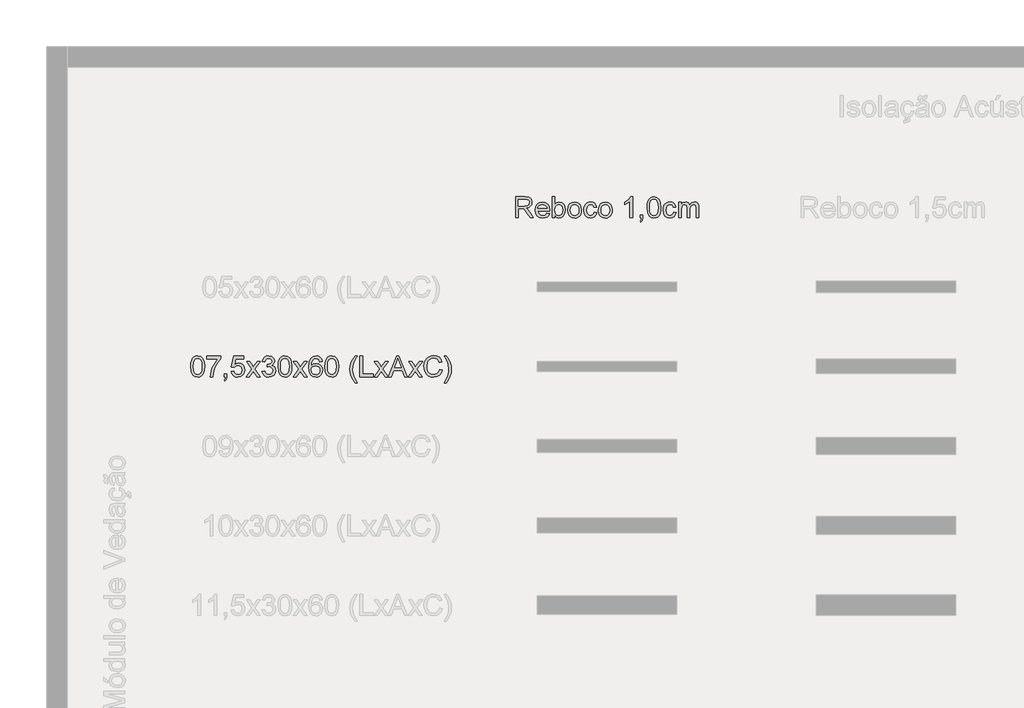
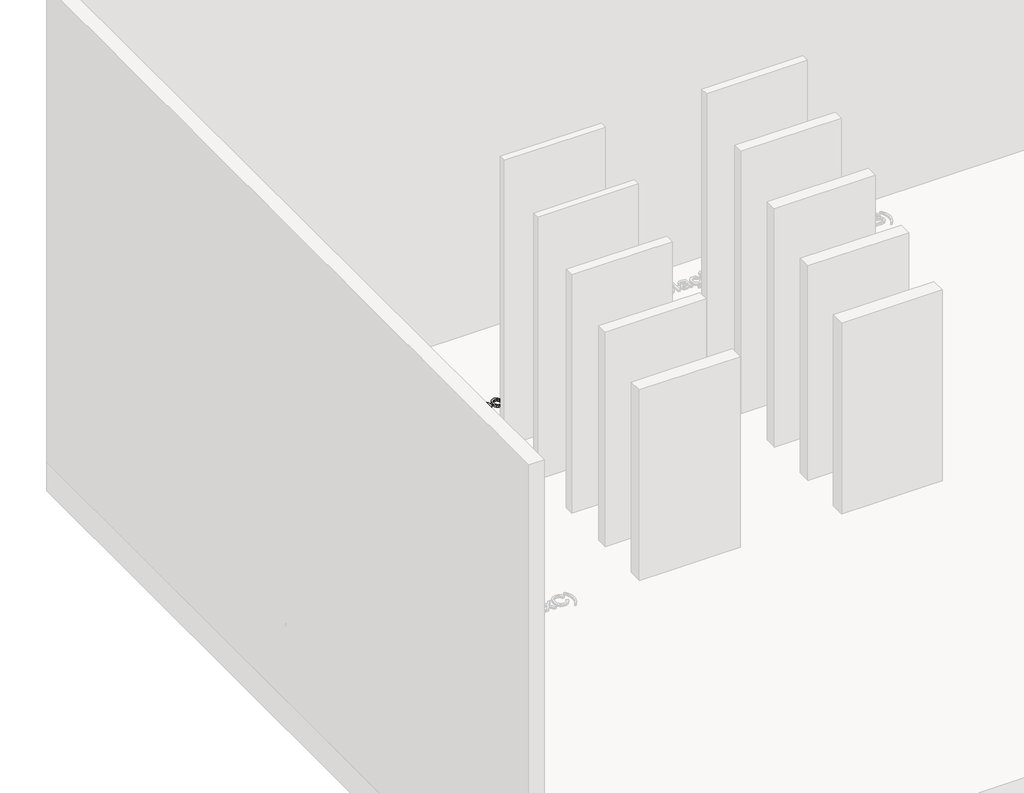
# One storey, part 24 of 26: 2 proxies.
"""IFC4 building model written with IfcOpenShell, lengths in millimetres."""

from ifc_helpers import new_model, si_unit, origin, origin_with_axes, place, context, project, spatial, polyline, outline, extrude, element, save

model = new_model("IFC4")

# Units and contexts
model_context = context("Model", 3, world=origin())
ifc_project = project(units=[si_unit("LENGTHUNIT", "METRE", prefix="MILLI")], contexts=[model_context])

# Site, building, storey
site = spatial("IfcSite", under=ifc_project)
building = spatial("IfcBuilding", under=site)
storey = spatial("IfcBuildingStorey", under=building, Name="Catálogo Celucon", Elevation=0.0)

# Proxies
placement = place(None, origin())
element("IfcBuildingElementProxy", 1, Name="Legenda Tabela de Módulos", ObjectType="Legenda Tabela de Módulos", at=placement, inside=storey, context=model_context, shape_type="SweptSolid", body=[
    extrude(outline(polyline([(7977.4161545, 58.7424105), (7978.8003105, 82.8616738), (7982.9527786, 102.0973037), (7989.8321719, 116.7436056), (7999.3971037, 127.0948852), (8011.7165521, 133.2477116), (8026.8594947, 135.2986537), (8048.858838, 130.4426114), (8064.0523644, 116.4447015), (8072.8815323, 94.1510526), (8076.3028348, 58.7424105), (8074.9324744, 34.761103), (8070.8213931, 15.5714584), (8063.9833865, 0.9113609), (8054.4322502, -9.4813055), (8042.0852108, -15.6755186), (8026.8594947, -17.7402563), (8007.2881725, -14.1534068), (7992.4257399, -3.3928585), (7981.1685509, 22.0921667), (7977.4161545, 58.7424105)]), holes=[polyline([(7996.2517127, 58.7791987), (7998.4590046, 29.1509025), (8005.0808806, 12.003003), (8014.940118, 3.8222272), (8026.8594947, 1.0953019), (8038.7788713, 3.8314242), (8048.6381088, 12.0397912), (8055.2599847, 29.1968878), (8057.4672767, 58.7791987), (8055.3335611, 87.7407088), (8048.9324144, 105.0219655), (8039.091571, 113.602813), (8026.6387655, 116.4630956), (8014.8481475, 113.9431039), (8005.3751862, 106.3831289), (7998.532581, 88.0258173), (7996.2517127, 58.7791987)])]), origin_with_axes(), (0.0, 0.0, 1.0), 20.0),
    extrude(outline(polyline([(8092.7839482, 114.1086508), (8092.7839482, 132.9442089), (8191.6706285, 132.9442089), (8191.6706285, 117.7138943), (8163.6196264, 77.1916926), (8151.3093751, 51.72966), (8142.153712, 25.5594546), (8135.1639541, -15.3858115), (8116.3283959, -15.3858115), (8123.8147945, 27.1045589), (8132.5289993, 51.5641131), (8144.3610039, 75.1315534), (8172.8350704, 114.1086508), (8092.7839482, 114.1086508)])), origin_with_axes(), (0.0, 0.0, 1.0), 20.0),
    extrude(outline(polyline([(8217.569521, -15.3858115), (8217.569521, 3.4497466), (8236.4050791, 3.4497466), (8236.4050791, -15.3858115), (8233.0205648, -34.644434), (8222.2784105, -45.9935935), (8217.569521, -38.9302592), (8224.4857025, -30.8000671), (8226.9505119, -15.3858115), (8217.569521, -15.3858115)])), origin_with_axes(), (0.0, 0.0, 1.0), 20.0),
    extrude(outline(polyline([(8267.0128611, 24.6397496), (8285.8484193, 26.9941943), (8289.30651, 15.6864215), (8295.3397748, 7.5884191), (8303.9206223, 2.7185812), (8315.0214615, 1.0953019), (8328.5227307, 3.3531776), (8338.6394856, 10.1268049), (8344.9578589, 20.6344343), (8347.0639833, 34.0943168), (8345.0912161, 46.7678516), (8339.1729145, 56.4615421), (8329.2630932, 62.6143685), (8315.3157671, 64.6653106), (8298.7794714, 61.3911609), (8288.2028641, 52.8930868), (8269.3673059, 55.2475316), (8285.8484193, 132.9442089), (8358.8362071, 132.9442089), (8358.8362071, 114.1086508), (8301.0787339, 114.1086508), (8293.0221182, 72.6115617), (8306.4774022, 80.778542), (8320.5764796, 83.5008688), (8338.1750346, 80.1255515), (8352.7845483, 69.9995996), (8362.6207932, 54.5669499), (8365.8995414, 35.2715392), (8362.9472884, 16.4359811), (8354.0905294, 0.3227497), (8337.1311694, -13.2245048), (8314.9478851, -17.7402563), (8296.4480193, -14.838587), (8281.7097468, -6.1335793), (8271.6067875, 7.3630914), (8267.0128611, 24.6397496)])), origin_with_axes(), (0.0, 0.0, 1.0), 20.0),
    extrude(outline(polyline([(8375.3173205, -15.3858115), (8415.5636108, 40.2379462), (8377.6717653, 95.2730926), (8400.3332962, 95.2730926), (8418.6170313, 68.785589), (8427.1518936, 56.2776012), (8434.5463217, 66.5047206), (8455.3684427, 95.2730926), (8478.0299736, 95.2730926), (8438.2251417, 40.2379462), (8476.5584456, -15.3858115), (8453.8969147, -15.3858115), (8430.8307136, 18.0546619), (8426.6000706, 24.161503), (8397.9788514, -15.3858115), (8375.3173205, -15.3858115)])), origin_with_axes(), (0.0, 0.0, 1.0), 20.0),
    extrude(outline(polyline([(8488.3306694, 24.6397496), (8507.1662276, 26.9941943), (8511.3830749, 15.1575911), (8517.5588939, 7.1653548), (8525.9971872, 2.6128151), (8537.0014574, 1.0953019), (8549.9141154, 3.1830322), (8559.8837175, 9.4462232), (8566.2572731, 18.7904258), (8568.3817916, 30.1211913), (8566.2756672, 40.8771411), (8559.9572939, 49.6005429), (8550.392362, 55.3808888), (8538.5465618, 57.3076707), (8525.3395981, 55.2475316), (8527.4365255, 74.0830897), (8530.4531579, 73.8623605), (8551.8271018, 79.2702258), (8558.9456184, 86.1312251), (8561.3184573, 95.898492), (8559.5986089, 104.0332827), (8554.439064, 110.6321659), (8546.5663893, 115.0053632), (8536.7071518, 116.4630956), (8526.8295202, 114.9915676), (8518.7545104, 110.5769836), (8512.8592015, 103.2193437), (8509.5206723, 92.9186479), (8490.6851142, 95.2730926), (8496.2309353, 112.1864674), (8506.0993698, 124.8140169), (8519.600639, 132.6774945), (8536.0449642, 135.2986537), (8558.7616774, 130.1299117), (8574.6541796, 116.0032431), (8580.1540154, 97.002138), (8574.9300911, 79.6381078), (8559.4790473, 67.1669082), (8571.2696652, 62.4028364), (8580.0068626, 54.2910384), (8585.414728, 43.2729726), (8587.2173497, 29.7900975), (8583.6121062, 11.4327859), (8572.7963755, -3.9078933), (8556.471612, -14.2821655), (8536.3392698, -17.7402563), (8518.129111, -14.7880033), (8503.3034666, -5.9312442), (8492.9935737, 7.6160102), (8488.3306694, 24.6397496)])), origin_with_axes(), (0.0, 0.0, 1.0), 20.0),
    extrude(outline(polyline([(8603.6984631, 58.7424105), (8605.0826191, 82.8616738), (8609.2350871, 102.0973037), (8616.1144805, 116.7436056), (8625.6794123, 127.0948852), (8637.9988606, 133.2477116), (8653.1418033, 135.2986537), (8675.1411466, 130.4426114), (8690.334673, 116.4447015), (8699.1638409, 94.1510526), (8702.5851434, 58.7424105), (8701.214783, 34.761103), (8697.1037017, 15.5714584), (8690.2656951, 0.9113609), (8680.7145588, -9.4813055), (8668.3675193, -15.6755186), (8653.1418033, -17.7402563), (8633.5704811, -14.1534068), (8618.7080485, -3.3928585), (8607.4508595, 22.0921667), (8603.6984631, 58.7424105)]), holes=[polyline([(8622.5340213, 58.7791987), (8624.7413132, 29.1509025), (8631.3631892, 12.003003), (8641.2224266, 3.8222272), (8653.1418033, 1.0953019), (8665.0611799, 3.8314242), (8674.9204174, 12.0397912), (8681.5422933, 29.1968878), (8683.7495853, 58.7791987), (8681.6158697, 87.7407088), (8675.214723, 105.0219655), (8665.3738796, 113.602813), (8652.9210741, 116.4630956), (8641.1304561, 113.9431039), (8631.6574947, 106.3831289), (8624.8148896, 88.0258173), (8622.5340213, 58.7791987)])]), origin_with_axes(), (0.0, 0.0, 1.0), 20.0),
    extrude(outline(polyline([(8712.0029225, -15.3858115), (8752.2492128, 40.2379462), (8714.3573673, 95.2730926), (8737.0188982, 95.2730926), (8755.3026333, 68.785589), (8763.8374956, 56.2776012), (8771.2319237, 66.5047206), (8792.0540446, 95.2730926), (8814.7155755, 95.2730926), (8774.9107437, 40.2379462), (8813.2440476, -15.3858115), (8790.5825167, -15.3858115), (8767.5163156, 18.0546619), (8763.2856726, 24.161503), (8734.6644534, -15.3858115), (8712.0029225, -15.3858115)])), origin_with_axes(), (0.0, 0.0, 1.0), 20.0),
    extrude(outline(polyline([(8921.5485069, 95.2730926), (8902.7129488, 92.9186479), (8895.5760381, 108.6272091), (8887.0319787, 114.5041239), (8876.7036917, 116.4630956), (8859.7075436, 111.9013588), (8846.8500678, 94.7764519), (8842.9459202, 80.7463524), (8841.4973848, 61.2072199), (8858.1072569, 76.2351994), (8878.6902545, 81.146424), (8896.0910729, 77.7895008), (8910.6959881, 67.7187312), (8920.6012108, 52.3320668), (8923.9029517, 33.0274591), (8922.3486503, 19.5399854), (8917.685746, 7.0365961), (8910.3005149, -3.5676024), (8900.5792332, -11.3575037), (8888.9633592, -16.1445681), (8875.8943513, -17.7402563), (8854.525006, -13.5096133), (8837.5058651, -0.8176845), (8826.3728363, 21.586329), (8822.6618266, 54.953226), (8826.782105, 92.4679924), (8839.14294, 118.1185645), (8856.0195266, 131.0036314), (8877.8809141, 135.2986537), (8894.4080128, 132.6407063), (8907.6425675, 124.6668641), (8916.9131938, 112.0025264), (8921.5485069, 95.2730926)]), holes=[polyline([(8841.4973848, 33.3217647), (8845.8567864, 17.0061982), (8857.4450693, 5.1603979), (8874.4228234, 1.0953019), (8886.8526363, 3.2014263), (8896.6245018, 9.5197996), (8902.9566706, 19.4526134), (8905.0673936, 32.4020597), (8902.9842618, 44.8318726), (8896.7348664, 54.3094325), (8886.797454, 60.3105075), (8873.6502712, 62.3108659), (8861.2388524, 60.3105075), (8850.8599816, 54.3094325), (8843.838034, 45.0617988), (8841.4973848, 33.3217647)])]), origin_with_axes(), (0.0, 0.0, 1.0), 20.0),
    extrude(outline(polyline([(8940.3840651, 58.7424105), (8941.7682211, 82.8616738), (8945.9206891, 102.0973037), (8952.8000824, 116.7436056), (8962.3650143, 127.0948852), (8974.6844626, 133.2477116), (8989.8274053, 135.2986537), (9011.8267486, 130.4426114), (9027.020275, 116.4447015), (9035.8494428, 94.1510526), (9039.2707454, 58.7424105), (9037.900385, 34.761103), (9033.7893037, 15.5714584), (9026.9512971, 0.9113609), (9017.4001608, -9.4813055), (9005.0531213, -15.6755186), (8989.8274053, -17.7402563), (8970.2560831, -14.1534068), (8955.3936505, -3.3928585), (8944.1364615, 22.0921667), (8940.3840651, 58.7424105)]), holes=[polyline([(8959.2196233, 58.7791987), (8961.4269152, 29.1509025), (8968.0487911, 12.003003), (8977.9080286, 3.8222272), (8989.8274053, 1.0953019), (9001.7467819, 3.8314242), (9011.6060194, 12.0397912), (9018.2278953, 29.1968878), (9020.4351873, 58.7791987), (9018.3014717, 87.7407088), (9011.900325, 105.0219655), (9002.0594816, 113.602813), (8989.6066761, 116.4630956), (8977.8160581, 113.9431039), (8968.3430967, 106.3831289), (8961.5004916, 88.0258173), (8959.2196233, 58.7791987)])]), origin_with_axes(), (0.0, 0.0, 1.0), 20.0),
    extrude(outline(polyline([(9156.9929839, -57.7658174), (9142.3972657, -37.2839873), (9130.2479628, -13.5831897), (9122.0533914, 12.186944), (9119.3218676, 38.8767828), (9121.3636126, 62.2832747), (9127.4888478, 84.6780912), (9139.6473478, 110.0435547), (9156.9929839, 135.2986537), (9171.1196525, 135.2986537), (9153.4981049, 105.4634239), (9142.9031034, 76.5478991), (9138.1574257, 38.7664182), (9140.2175649, 14.6195637), (9146.3979824, -9.5180937), (9156.6986783, -33.646554), (9171.1196525, -57.7658174), (9156.9929839, -57.7658174)])), origin_with_axes(), (0.0, 0.0, 1.0), 20.0),
    extrude(outline(polyline([(9192.3096554, -15.3858115), (9192.3096554, 135.2986537), (9211.1452136, 135.2986537), (9211.1452136, 3.4497466), (9286.4874462, 3.4497466), (9286.4874462, -15.3858115), (9192.3096554, -15.3858115)])), origin_with_axes(), (0.0, 0.0, 1.0), 20.0),
    extrude(outline(polyline([(9396.0794925, -15.3858115), (9456.2281987, 135.2986537), (9472.2678537, 135.2986537), (9532.4165599, -15.3858115), (9512.514144, -15.3858115), (9495.2604784, 31.7030839), (9433.1987858, 31.7030839), (9415.9819085, -15.3858115), (9396.0794925, -15.3858115)]), holes=[polyline([(9440.1149673, 50.538642), (9488.3810851, 50.538642), (9474.8062395, 87.5843589), (9464.2480262, 116.4630956), (9454.8670354, 90.8217205), (9440.1149673, 50.538642)])]), origin_with_axes(), (0.0, 0.0, 1.0), 20.0),
    extrude(outline(polyline([(9293.5507805, -15.3858115), (9333.7970707, 40.2379462), (9295.9052252, 95.2730926), (9318.5667561, 95.2730926), (9336.8504913, 68.785589), (9345.3853536, 56.2776012), (9352.7797817, 66.5047206), (9373.6019026, 95.2730926), (9396.2634335, 95.2730926), (9356.4586016, 40.2379462), (9394.7919055, -15.3858115), (9372.1303746, -15.3858115), (9349.0641735, 18.0546619), (9344.8335306, 24.161503), (9316.2123114, -15.3858115), (9293.5507805, -15.3858115)])), origin_with_axes(), (0.0, 0.0, 1.0), 20.0),
    extrude(outline(polyline([(9538.4130365, -15.3858115), (9578.6593267, 40.2379462), (9540.7674812, 95.2730926), (9563.4290121, 95.2730926), (9581.7127473, 68.785589), (9590.2476096, 56.2776012), (9597.6420377, 66.5047206), (9618.4641586, 95.2730926), (9641.1256895, 95.2730926), (9601.3208576, 40.2379462), (9639.6541615, -15.3858115), (9616.9926306, -15.3858115), (9593.9264295, 18.0546619), (9589.6957866, 24.161503), (9561.0745674, -15.3858115), (9538.4130365, -15.3858115)])), origin_with_axes(), (0.0, 0.0, 1.0), 20.0),
    extrude(outline(polyline([(9764.4397343, 38.177807), (9783.2752924, 33.3217647), (9774.5840803, 11.3730051), (9760.9448553, -4.6620513), (9743.0290022, -14.470705), (9721.5079055, -17.7402563), (9699.6603135, -15.2662499), (9682.3100789, -7.8442306), (9669.0111447, 4.2682841), (9659.3174542, 20.8137768), (9653.3991526, 40.2655373), (9651.4263854, 61.0968553), (9653.65667, 83.0686074), (9660.3475238, 102.0421214), (9671.1494588, 117.4149902), (9685.7129873, 128.5848073), (9702.985047, 135.3860257), (9721.9125757, 137.6530985), (9742.5645512, 134.7192396), (9759.6388743, 125.9176628), (9772.6021161, 111.7909942), (9780.9208477, 92.8818597), (9762.0852895, 88.3936993), (9755.5553841, 102.1294933), (9746.6342457, 111.5518709), (9735.2115098, 117.001123), (9721.1768117, 118.8175403), (9704.9992009, 116.8033864), (9691.7094638, 110.7609246), (9681.6248987, 101.3247515), (9675.0628036, 89.1294633), (9670.2619435, 61.1336435), (9671.6828877, 43.7328251), (9675.9457204, 28.6864515), (9683.2113898, 16.5693383), (9693.6408443, 7.9563011), (9706.1442336, 2.8105517), (9719.6317073, 1.0953019), (9735.3540641, 3.4313525), (9748.4552616, 10.4395046), (9758.3466888, 22.0461815), (9764.4397343, 38.177807)])), origin_with_axes(), (0.0, 0.0, 1.0), 20.0),
    extrude(outline(polyline([(9811.5286297, -57.7658174), (9797.4019611, -57.7658174), (9811.8229353, -33.646554), (9822.1236311, -9.5180937), (9828.3040487, 14.6195637), (9830.3641878, 38.7664182), (9825.6185101, 76.2168053), (9815.1338732, 105.1691183), (9797.4019611, 135.2986537), (9811.5286297, 135.2986537), (9828.8742658, 110.0435547), (9841.0327657, 84.6780912), (9847.1580009, 62.2832747), (9849.199746, 38.8767828), (9846.4544266, 12.186944), (9838.2184684, -13.5831897), (9826.05537, -37.2839873), (9811.5286297, -57.7658174)])), origin_with_axes(), (0.0, 0.0, 1.0), 20.0),
])
element("IfcBuildingElementProxy", 2, Name="Legenda Tabela de Módulos", ObjectType="Legenda Tabela de Módulos", at=placement, inside=storey, context=model_context, shape_type="SweptSolid", body=[
    extrude(outline(polyline([(10308.7723044, 1127.4713313), (10308.7723044, 1278.1557966), (10373.7034766, 1278.1557966), (10403.8514061, 1274.0907005), (10413.1312294, 1268.462106), (10420.3325195, 1259.7065145), (10424.954037, 1248.8493971), (10426.4945429, 1236.9162249), (10423.9423616, 1222.0721864), (10416.2858175, 1209.7665337), (10403.2949846, 1200.7442277), (10384.7399364, 1195.7502297), (10395.4453025, 1187.693614), (10410.7124053, 1168.3062328), (10435.8387456, 1127.4713313), (10413.9497669, 1127.4713313), (10394.3416565, 1158.7045127), (10380.1781997, 1179.3794809), (10370.2269917, 1189.1467478), (10361.2690651, 1192.7335973), (10350.3429699, 1193.3957849), (10327.6078626, 1193.3957849), (10327.6078626, 1127.4713313), (10308.7723044, 1127.4713313)]), holes=[polyline([(10327.6078626, 1212.231343), (10369.7671392, 1212.231343), (10391.2698419, 1214.8984875), (10403.4835241, 1223.4333498), (10407.6589847, 1236.2172491), (10405.6678234, 1245.405102), (10399.6943395, 1252.8087271), (10389.4166363, 1257.6923606), (10374.512817, 1259.3202384), (10327.6078626, 1259.3202384), (10327.6078626, 1212.231343)])]), origin_with_axes(), (0.0, 0.0, 1.0), 20.0),
    extrude(outline(polyline([(10534.5782731, 1160.4335581), (10553.0459492, 1158.0791133), (10546.3918836, 1144.1639769), (10535.7738896, 1133.7621135), (10521.4310903, 1127.2781933), (10503.6026091, 1125.1168866), (10481.5020982, 1128.8462903), (10464.496753, 1140.0345015), (10453.6534312, 1157.9549532), (10450.0389906, 1181.8810784), (10453.6902194, 1206.6119456), (10464.6439058, 1225.1072129), (10481.4193248, 1236.6403134), (10502.5357513, 1240.4846803), (10522.9945888, 1236.6495105), (10539.3423449, 1225.1440011), (10550.0615065, 1206.685522), (10553.6345604, 1181.991443), (10553.5241958, 1176.9146715), (10468.8745487, 1176.9146715), (10472.1349029, 1162.815594), (10479.7086735, 1152.4505188), (10490.6393673, 1146.0769633), (10503.9704911, 1143.9524447), (10522.4381672, 1147.8887821), (10534.5782731, 1160.4335581)]), holes=[polyline([(10468.8745487, 1195.7502297), (10534.7990023, 1195.7502297), (10532.2514195, 1205.7014376), (10527.2574214, 1212.8199542), (10516.2761438, 1219.4418301), (10502.4621749, 1221.6491221), (10489.7656475, 1219.8878871), (10479.2672151, 1214.6041819), (10471.969356, 1206.3682237), (10468.8745487, 1195.7502297)])]), origin_with_axes(), (0.0, 0.0, 1.0), 20.0),
    extrude(outline(polyline([(10591.3056767, 1127.4713313), (10572.4701186, 1127.4713313), (10572.4701186, 1278.1557966), (10591.3056767, 1278.1557966), (10591.3056767, 1222.2745215), (10604.4942463, 1235.9321406), (10620.8833891, 1240.4846803), (10639.7557355, 1236.382796), (10654.3974389, 1224.8496955), (10663.3921537, 1206.9154482), (10666.6479093, 1184.4562524), (10663.2771906, 1159.311518), (10653.1650342, 1140.6047186), (10638.3255942, 1128.9888446), (10620.7730245, 1125.1168866), (10604.0251967, 1130.1108847), (10591.3056767, 1145.0928789), (10591.3056767, 1127.4713313)]), holes=[polyline([(10591.3056767, 1183.5733356), (10592.5932637, 1167.8647744), (10596.4560247, 1157.2329848), (10606.3244592, 1147.2725797), (10619.1543438, 1143.9524447), (10630.0252567, 1146.39886), (10639.3142771, 1153.7381058), (10645.6878327, 1165.9241969), (10647.8123512, 1182.911148), (10645.7752046, 1200.1464195), (10639.663765, 1212.1945548), (10630.6644517, 1219.2854803), (10619.9636842, 1221.6491221), (10609.0927712, 1219.2027068), (10599.8037508, 1211.863461), (10593.4301953, 1199.8980991), (10591.3056767, 1183.5733356)])]), origin_with_axes(), (0.0, 0.0, 1.0), 20.0),
    extrude(outline(polyline([(10683.1290227, 1182.8007834), (10687.2033158, 1209.4814251), (10699.4261951, 1228.2342098), (10714.527751, 1237.4220627), (10732.6091511, 1240.4846803), (10752.3966039, 1236.7552765), (10768.2017341, 1225.5670654), (10778.5622108, 1207.8029635), (10782.015703, 1184.3458878), (10780.4889928, 1165.3171916), (10775.9088619, 1150.831838), (10768.4086677, 1139.9839177), (10758.1217674, 1131.8675212), (10745.9034867, 1126.8045452), (10732.6091511, 1125.1168866), (10712.582575, 1128.8324947), (10696.7958388, 1139.9793192), (10686.5457268, 1158.1159015), (10683.1290227, 1182.8007834)]), holes=[polyline([(10701.9645809, 1182.8375716), (10704.1442817, 1165.7908397), (10710.6833842, 1153.6461353), (10720.5242275, 1146.3758674), (10732.6091511, 1143.9524447), (10744.6388923, 1146.3896629), (10754.4613416, 1153.7013176), (10761.0004441, 1166.0069703), (10763.1801449, 1183.4261828), (10760.9866485, 1199.9762741), (10754.4061593, 1211.9554315), (10744.5699144, 1219.2256995), (10732.6091511, 1221.6491221), (10720.5242275, 1219.2348965), (10710.6833842, 1211.9922197), (10704.1442817, 1199.8751065), (10701.9645809, 1182.8375716)])]), origin_with_axes(), (0.0, 0.0, 1.0), 20.0),
    extrude(outline(polyline([(10873.839049, 1167.4968924), (10892.6746072, 1165.1424477), (10887.4230917, 1148.3900213), (10877.5546572, 1135.7302821), (10863.9982057, 1127.7702355), (10847.6826392, 1125.1168866), (10827.646866, 1128.8186992), (10811.9796915, 1139.9241369), (10801.8675352, 1157.9457561), (10798.4968164, 1182.3961132), (10799.9361547, 1199.1577366), (10804.2541696, 1213.6844769), (10811.519839, 1225.415314), (10821.8021408, 1233.789228), (10834.103195, 1238.8108172), (10847.4251218, 1240.4846803), (10863.3406166, 1238.1854178), (10876.0647351, 1231.2876304), (10885.1928071, 1220.1592), (10890.3201624, 1205.1680087), (10871.4846043, 1202.813564), (10862.7474069, 1216.9218385), (10847.5722746, 1221.6491221), (10835.3999791, 1219.3222685), (10825.7384782, 1212.3417076), (10819.4339005, 1200.3303605), (10817.3323746, 1182.911148), (10819.3879152, 1165.2574108), (10825.5545372, 1153.2046769), (10835.0412941, 1146.2655028), (10847.0572398, 1143.9524447), (10856.8107112, 1145.3963816), (10864.807546, 1149.7281921), (10870.6246801, 1157.0582408), (10873.839049, 1167.4968924)])), origin_with_axes(), (0.0, 0.0, 1.0), 20.0),
    extrude(outline(polyline([(10904.446831, 1182.8007834), (10908.5211241, 1209.4814251), (10920.7440034, 1228.2342098), (10935.8455593, 1237.4220627), (10953.9269594, 1240.4846803), (10973.7144122, 1236.7552765), (10989.5195424, 1225.5670654), (10999.8800191, 1207.8029635), (11003.3335113, 1184.3458878), (11001.8068011, 1165.3171916), (10997.2266702, 1150.831838), (10989.726476, 1139.9839177), (10979.4395757, 1131.8675212), (10967.221295, 1126.8045452), (10953.9269594, 1125.1168866), (10933.9003833, 1128.8324947), (10918.1136471, 1139.9793192), (10907.8635351, 1158.1159015), (10904.446831, 1182.8007834)]), holes=[polyline([(10923.2823892, 1182.8375716), (10925.46209, 1165.7908397), (10932.0011925, 1153.6461353), (10941.8420358, 1146.3758674), (10953.9269594, 1143.9524447), (10965.9567006, 1146.3896629), (10975.7791499, 1153.7013176), (10982.3182524, 1166.0069703), (10984.4979532, 1183.4261828), (10982.3044568, 1199.9762741), (10975.7239676, 1211.9554315), (10965.8877227, 1219.2256995), (10953.9269594, 1221.6491221), (10941.8420358, 1219.2348965), (10932.0011925, 1211.9922197), (10925.46209, 1199.8751065), (10923.2823892, 1182.8375716)])]), origin_with_axes(), (0.0, 0.0, 1.0), 20.0),
    extrude(outline(polyline([(11149.309087, 1127.4713313), (11130.4735289, 1127.4713313), (11130.4735289, 1244.8992642), (11112.6312521, 1232.1889413), (11092.8024126, 1222.6791917), (11092.8024126, 1240.4846803), (11120.4119563, 1258.1062278), (11137.1689812, 1278.1557966), (11149.309087, 1278.1557966), (11149.309087, 1127.4713313)])), origin_with_axes(), (0.0, 0.0, 1.0), 20.0),
    extrude(outline(polyline([(11203.4613167, 1127.4713313), (11203.4613167, 1146.3068895), (11222.2968749, 1146.3068895), (11222.2968749, 1127.4713313), (11218.9123605, 1108.2127089), (11208.1702062, 1096.8635493), (11203.4613167, 1103.9268837), (11210.3774982, 1112.0570758), (11212.8423076, 1127.4713313), (11203.4613167, 1127.4713313)])), origin_with_axes(), (0.0, 0.0, 1.0), 20.0),
    extrude(outline(polyline([(11252.9046569, 1201.5995534), (11254.2888129, 1225.7188167), (11258.4412809, 1244.9544465), (11265.3206742, 1259.6007484), (11274.8856061, 1269.9520281), (11287.2050544, 1276.1048544), (11302.347997, 1278.1557966), (11324.3473403, 1273.2997542), (11339.5408667, 1259.3018443), (11348.3700346, 1237.0081954), (11351.7913372, 1201.5995534), (11350.4209767, 1177.6182458), (11346.3098954, 1158.4286012), (11339.4718888, 1143.7685037), (11329.9207525, 1133.3758374), (11317.5737131, 1127.1816243), (11302.347997, 1125.1168866), (11282.7766749, 1128.703736), (11267.9142423, 1139.4642844), (11256.6570532, 1164.9493096), (11252.9046569, 1201.5995534)]), holes=[polyline([(11271.740215, 1201.6363416), (11273.947507, 1172.0080454), (11280.5693829, 1154.8601459), (11290.4286204, 1146.67937), (11302.347997, 1143.9524447), (11314.2673737, 1146.6885671), (11324.1266111, 1154.8969341), (11330.748487, 1172.0540306), (11332.955779, 1201.6363416), (11330.8220634, 1230.5978516), (11324.4209167, 1247.8791084), (11314.5800733, 1256.4599559), (11302.1272678, 1259.3202384), (11290.3366499, 1256.8002468), (11280.8636885, 1249.2402718), (11274.0210834, 1230.8829602), (11271.740215, 1201.6363416)])]), origin_with_axes(), (0.0, 0.0, 1.0), 20.0),
    extrude(outline(polyline([(11443.6146832, 1167.4968924), (11462.4502413, 1165.1424477), (11457.1987258, 1148.3900213), (11447.3302913, 1135.7302821), (11433.7738398, 1127.7702355), (11417.4582733, 1125.1168866), (11397.4225001, 1128.8186992), (11381.7553257, 1139.9241369), (11371.6431693, 1157.9457561), (11368.2724505, 1182.3961132), (11369.7117889, 1199.1577366), (11374.0298038, 1213.6844769), (11381.2954732, 1225.415314), (11391.5777749, 1233.789228), (11403.8788292, 1238.8108172), (11417.2007559, 1240.4846803), (11433.1162507, 1238.1854178), (11445.8403692, 1231.2876304), (11454.9684412, 1220.1592), (11460.0957965, 1205.1680087), (11441.2602384, 1202.813564), (11432.523041, 1216.9218385), (11417.3479087, 1221.6491221), (11405.1756132, 1219.3222685), (11395.5141123, 1212.3417076), (11389.2095346, 1200.3303605), (11387.1080087, 1182.911148), (11389.1635493, 1165.2574108), (11395.3301713, 1153.2046769), (11404.8169282, 1146.2655028), (11416.8328739, 1143.9524447), (11426.5863453, 1145.3963816), (11434.5831802, 1149.7281921), (11440.4003142, 1157.0582408), (11443.6146832, 1167.4968924)])), origin_with_axes(), (0.0, 0.0, 1.0), 20.0),
    extrude(outline(polyline([(11478.9313547, 1127.4713313), (11478.9313547, 1238.1302355), (11497.7669128, 1238.1302355), (11497.7669128, 1219.9200767), (11510.7163591, 1234.8376916), (11529.147247, 1240.4846803), (11539.6226868, 1239.045342), (11548.0195934, 1234.727327), (11558.3938657, 1218.5957016), (11573.0907514, 1235.0124356), (11591.650398, 1240.4846803), (11605.8092563, 1238.2084104), (11616.2800976, 1231.3796009), (11622.7502222, 1219.8143107), (11624.9069304, 1203.3285988), (11624.9069304, 1127.4713313), (11606.0713722, 1127.4713313), (11606.0713722, 1195.2351949), (11604.3239328, 1210.9621502), (11597.9963624, 1218.7060662), (11587.2358141, 1221.6491221), (11577.0316872, 1219.7637269), (11568.7129556, 1214.1075412), (11563.1809301, 1204.294289), (11561.3369216, 1189.9376941), (11561.3369216, 1127.4713313), (11542.5013635, 1127.4713313), (11542.5013635, 1197.3321222), (11538.1419618, 1215.5790692), (11532.3892071, 1220.1316089), (11523.8497463, 1221.6491221), (11509.9070187, 1217.6024202), (11500.6363924, 1205.7566199), (11497.7669128, 1183.27903), (11497.7669128, 1127.4713313), (11478.9313547, 1127.4713313)])), origin_with_axes(), (0.0, 0.0, 1.0), 20.0),
])

save(model, "model.ifc")
